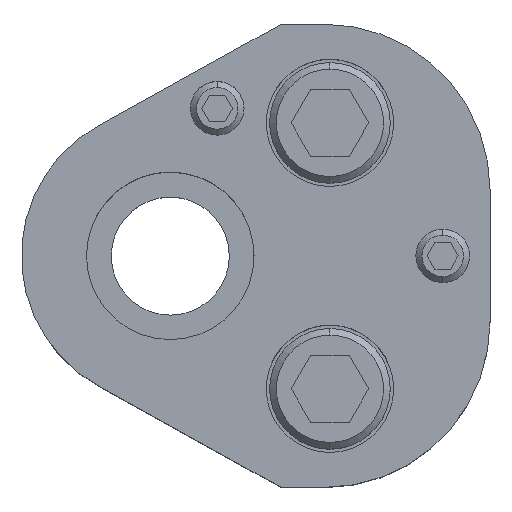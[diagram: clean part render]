
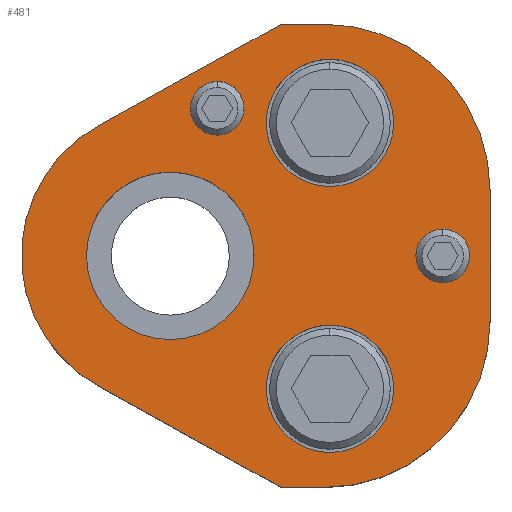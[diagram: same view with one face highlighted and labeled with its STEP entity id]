
A CAD part, top view. The second image highlights one B-rep face of the part: STEP entity #481.
In plain terms, the highlighted planar face has unit normal (0, 0, 1).
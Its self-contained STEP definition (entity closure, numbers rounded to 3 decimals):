
#213=FACE_BOUND('',#843,.T.);
#214=FACE_BOUND('',#844,.T.);
#215=FACE_BOUND('',#845,.T.);
#216=FACE_BOUND('',#846,.T.);
#217=FACE_BOUND('',#847,.T.);
#218=FACE_BOUND('',#848,.T.);
#303=CIRCLE('',#2712,24.7);
#305=CIRCLE('',#2716,24.7);
#308=CIRCLE('',#2722,22.2);
#309=CIRCLE('',#2724,4.);
#311=CIRCLE('',#2727,4.);
#313=CIRCLE('',#2730,4.);
#315=CIRCLE('',#2733,4.);
#325=CIRCLE('',#2748,9.5);
#326=CIRCLE('',#2749,9.5);
#327=CIRCLE('',#2750,9.5);
#328=CIRCLE('',#2751,9.5);
#329=CIRCLE('',#2752,12.5);
#330=CIRCLE('',#2753,12.5);
#481=ADVANCED_FACE('',(#213,#214,#215,#216,#217,#218),#595,.T.);
#595=PLANE('',#2754);
#843=EDGE_LOOP('',(#1257,#1258,#1259,#1260,#1261,#1262,#1263,#1264));
#844=EDGE_LOOP('',(#1265,#1266));
#845=EDGE_LOOP('',(#1267,#1268));
#846=EDGE_LOOP('',(#1269,#1270));
#847=EDGE_LOOP('',(#1271,#1272));
#848=EDGE_LOOP('',(#1273,#1274));
#1257=ORIENTED_EDGE('',*,*,#1996,.T.);
#1258=ORIENTED_EDGE('',*,*,#2000,.T.);
#1259=ORIENTED_EDGE('',*,*,#2003,.T.);
#1260=ORIENTED_EDGE('',*,*,#2006,.T.);
#1261=ORIENTED_EDGE('',*,*,#2009,.T.);
#1262=ORIENTED_EDGE('',*,*,#2012,.T.);
#1263=ORIENTED_EDGE('',*,*,#2015,.T.);
#1264=ORIENTED_EDGE('',*,*,#2018,.T.);
#1265=ORIENTED_EDGE('',*,*,#2043,.F.);
#1266=ORIENTED_EDGE('',*,*,#2044,.F.);
#1267=ORIENTED_EDGE('',*,*,#2045,.F.);
#1268=ORIENTED_EDGE('',*,*,#2046,.F.);
#1269=ORIENTED_EDGE('',*,*,#2029,.F.);
#1270=ORIENTED_EDGE('',*,*,#2025,.F.);
#1271=ORIENTED_EDGE('',*,*,#2023,.F.);
#1272=ORIENTED_EDGE('',*,*,#2019,.F.);
#1273=ORIENTED_EDGE('',*,*,#2047,.T.);
#1274=ORIENTED_EDGE('',*,*,#2048,.T.);
#1728=VERTEX_POINT('',#4024);
#1729=VERTEX_POINT('',#4026);
#1732=VERTEX_POINT('',#4033);
#1734=VERTEX_POINT('',#4039);
#1736=VERTEX_POINT('',#4045);
#1738=VERTEX_POINT('',#4051);
#1740=VERTEX_POINT('',#4057);
#1742=VERTEX_POINT('',#4063);
#1743=VERTEX_POINT('',#4071);
#1744=VERTEX_POINT('',#4072);
#1747=VERTEX_POINT('',#4083);
#1748=VERTEX_POINT('',#4084);
#1759=VERTEX_POINT('',#4119);
#1760=VERTEX_POINT('',#4120);
#1761=VERTEX_POINT('',#4123);
#1762=VERTEX_POINT('',#4124);
#1763=VERTEX_POINT('',#4127);
#1764=VERTEX_POINT('',#4128);
#1996=EDGE_CURVE('',#1729,#1728,#2294,.T.);
#2000=EDGE_CURVE('',#1728,#1732,#2298,.T.);
#2003=EDGE_CURVE('',#1732,#1734,#303,.T.);
#2006=EDGE_CURVE('',#1734,#1736,#2302,.T.);
#2009=EDGE_CURVE('',#1736,#1738,#305,.T.);
#2012=EDGE_CURVE('',#1738,#1740,#2306,.T.);
#2015=EDGE_CURVE('',#1740,#1742,#2309,.T.);
#2018=EDGE_CURVE('',#1742,#1729,#308,.T.);
#2019=EDGE_CURVE('',#1743,#1744,#309,.T.);
#2023=EDGE_CURVE('',#1744,#1743,#311,.T.);
#2025=EDGE_CURVE('',#1747,#1748,#313,.T.);
#2029=EDGE_CURVE('',#1748,#1747,#315,.T.);
#2043=EDGE_CURVE('',#1759,#1760,#325,.T.);
#2044=EDGE_CURVE('',#1760,#1759,#326,.T.);
#2045=EDGE_CURVE('',#1761,#1762,#327,.T.);
#2046=EDGE_CURVE('',#1762,#1761,#328,.T.);
#2047=EDGE_CURVE('',#1763,#1764,#329,.T.);
#2048=EDGE_CURVE('',#1764,#1763,#330,.T.);
#2294=LINE('',#4025,#2486);
#2298=LINE('',#4034,#2490);
#2302=LINE('',#4046,#2494);
#2306=LINE('',#4058,#2498);
#2309=LINE('',#4064,#2501);
#2486=VECTOR('',#3186,1.);
#2490=VECTOR('',#3192,1.);
#2494=VECTOR('',#3204,1.);
#2498=VECTOR('',#3216,1.);
#2501=VECTOR('',#3221,1.);
#2712=AXIS2_PLACEMENT_3D('',#4040,#3197,#3198);
#2716=AXIS2_PLACEMENT_3D('',#4052,#3209,#3210);
#2722=AXIS2_PLACEMENT_3D('',#4068,#3227,#3228);
#2724=AXIS2_PLACEMENT_3D('',#4070,#3231,#3232);
#2727=AXIS2_PLACEMENT_3D('',#4079,#3239,#3240);
#2730=AXIS2_PLACEMENT_3D('',#4082,#3245,#3246);
#2733=AXIS2_PLACEMENT_3D('',#4091,#3253,#3254);
#2748=AXIS2_PLACEMENT_3D('',#4118,#3287,#3288);
#2749=AXIS2_PLACEMENT_3D('',#4121,#3289,#3290);
#2750=AXIS2_PLACEMENT_3D('',#4122,#3291,#3292);
#2751=AXIS2_PLACEMENT_3D('',#4125,#3293,#3294);
#2752=AXIS2_PLACEMENT_3D('',#4126,#3295,#3296);
#2753=AXIS2_PLACEMENT_3D('',#4129,#3297,#3298);
#2754=AXIS2_PLACEMENT_3D('',#4130,#3299,#3300);
#3186=DIRECTION('',(0.875,-0.485,0.));
#3192=DIRECTION('',(1.,0.,0.));
#3197=DIRECTION('',(0.,0.,1.));
#3198=DIRECTION('',(-0.707,0.707,0.));
#3204=DIRECTION('',(0.,1.,0.));
#3209=DIRECTION('',(0.,0.,1.));
#3210=DIRECTION('',(-0.707,-0.707,0.));
#3216=DIRECTION('',(-1.,0.,0.));
#3221=DIRECTION('',(-0.875,-0.485,0.));
#3227=DIRECTION('',(0.,0.,1.));
#3228=DIRECTION('',(1.,0.,0.));
#3231=DIRECTION('',(0.,0.,1.));
#3232=DIRECTION('',(-1.,0.,0.));
#3239=DIRECTION('',(0.,0.,1.));
#3240=DIRECTION('',(1.,0.,0.));
#3245=DIRECTION('',(0.,0.,1.));
#3246=DIRECTION('',(-1.,0.,0.));
#3253=DIRECTION('',(0.,0.,1.));
#3254=DIRECTION('',(1.,0.,0.));
#3287=DIRECTION('',(0.,0.,1.));
#3288=DIRECTION('',(1.,0.,0.));
#3289=DIRECTION('',(0.,0.,1.));
#3290=DIRECTION('',(-1.,0.,0.));
#3291=DIRECTION('',(0.,0.,1.));
#3292=DIRECTION('',(1.,0.,0.));
#3293=DIRECTION('',(0.,0.,1.));
#3294=DIRECTION('',(-1.,0.,0.));
#3295=DIRECTION('',(0.,0.,-1.));
#3296=DIRECTION('',(-1.,0.,0.));
#3297=DIRECTION('',(0.,0.,-1.));
#3298=DIRECTION('',(1.,0.,0.));
#3299=DIRECTION('',(0.,0.,1.));
#3300=DIRECTION('',(-0.875,0.485,0.));
#4024=CARTESIAN_POINT('',(16.539,-34.55,30.));
#4025=CARTESIAN_POINT('',(16.539,-34.55,30.));
#4026=CARTESIAN_POINT('',(-10.763,-19.417,30.));
#4033=CARTESIAN_POINT('',(23.,-34.55,30.));
#4034=CARTESIAN_POINT('',(16.539,-34.55,30.));
#4039=CARTESIAN_POINT('',(47.7,-9.85,30.));
#4040=CARTESIAN_POINT('',(23.,-9.85,30.));
#4045=CARTESIAN_POINT('',(47.7,9.85,30.));
#4046=CARTESIAN_POINT('',(47.7,9.85,30.));
#4051=CARTESIAN_POINT('',(23.,34.55,30.));
#4052=CARTESIAN_POINT('',(23.,9.85,30.));
#4057=CARTESIAN_POINT('',(16.539,34.55,30.));
#4058=CARTESIAN_POINT('',(16.539,34.55,30.));
#4063=CARTESIAN_POINT('',(-10.763,19.417,30.));
#4064=CARTESIAN_POINT('',(16.539,34.55,30.));
#4068=CARTESIAN_POINT('',(0.,0.,30.));
#4070=CARTESIAN_POINT('',(7.,22.,30.));
#4071=CARTESIAN_POINT('',(7.,18.,30.));
#4072=CARTESIAN_POINT('',(7.,26.,30.));
#4079=CARTESIAN_POINT('',(7.,22.,30.));
#4082=CARTESIAN_POINT('',(40.64,0.,30.));
#4083=CARTESIAN_POINT('',(40.64,-4.,30.));
#4084=CARTESIAN_POINT('',(40.64,4.,30.));
#4091=CARTESIAN_POINT('',(40.64,0.,30.));
#4118=CARTESIAN_POINT('',(23.82,19.84,30.));
#4119=CARTESIAN_POINT('',(23.82,29.34,30.));
#4120=CARTESIAN_POINT('',(23.82,10.34,30.));
#4121=CARTESIAN_POINT('',(23.82,19.84,30.));
#4122=CARTESIAN_POINT('',(23.82,-19.84,30.));
#4123=CARTESIAN_POINT('',(23.82,-10.34,30.));
#4124=CARTESIAN_POINT('',(23.82,-29.34,30.));
#4125=CARTESIAN_POINT('',(23.82,-19.84,30.));
#4126=CARTESIAN_POINT('',(0.,0.,30.));
#4127=CARTESIAN_POINT('',(0.,12.5,30.));
#4128=CARTESIAN_POINT('',(0.,-12.5,30.));
#4129=CARTESIAN_POINT('',(0.,0.,30.));
#4130=CARTESIAN_POINT('',(-10.763,-19.417,30.));
